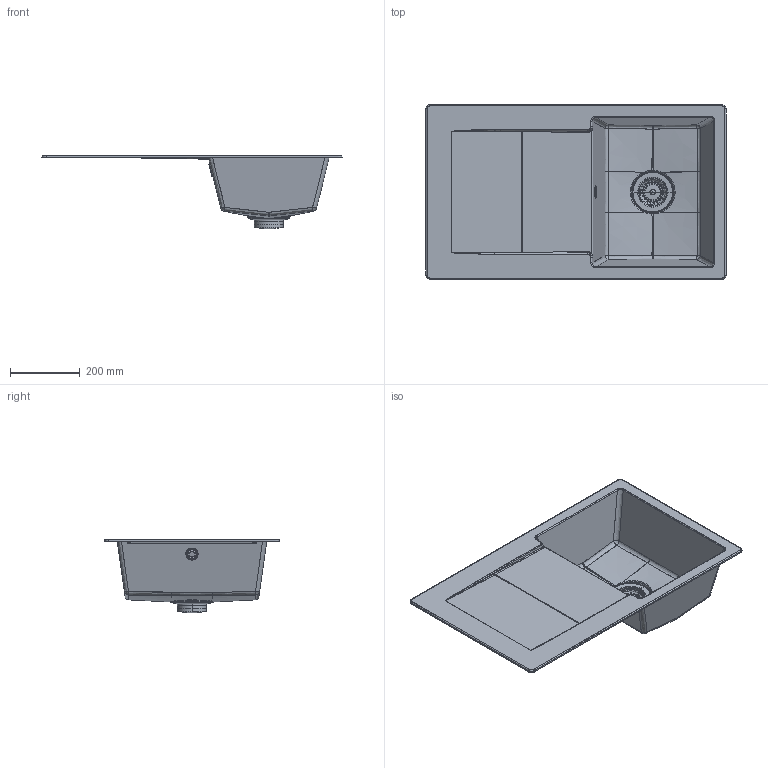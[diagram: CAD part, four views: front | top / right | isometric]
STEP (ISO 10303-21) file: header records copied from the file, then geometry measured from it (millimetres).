
FILE_DESCRIPTION(/* description */ (''),/* implementation_level */ '2;1');
FILE_NAME(/* name */ 'EPUD100',/* time_stamp */ '2014-11-03T16:23:46+01:00',/* author */ (''),/* organization */ (''),/* preprocessor_version */ 'ST-DEVELOPER v15',/* originating_system */ '',/* authorisation */ '');
FILE_SCHEMA (('AUTOMOTIVE_DESIGN'));
Length unit declared in the file: millimetre
Products named in the file (1): Document
Bounding box: 860 x 500 x 212.12 mm (x, y, z)
Volume: 31105.3 mm3; surface area: 619109.7 mm2
Topology: 3 solids, 167 shells, 345 faces, 1199 edges, 976 vertices
Faces by surface type: bspline 326, plane 19
Entity records: 57849 total; most frequent: CARTESIAN_POINT 51169, ORIENTED_EDGE 1785, EDGE_CURVE 1189, VERTEX_POINT 976, B_SPLINE_CURVE_WITH_KNOTS 930, EDGE_LOOP 432, ADVANCED_FACE 345, FACE_OUTER_BOUND 345
